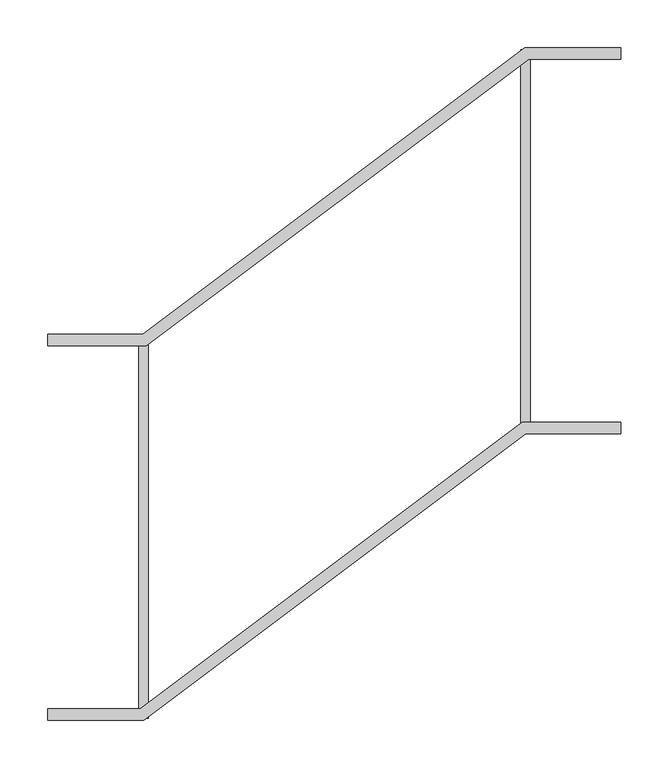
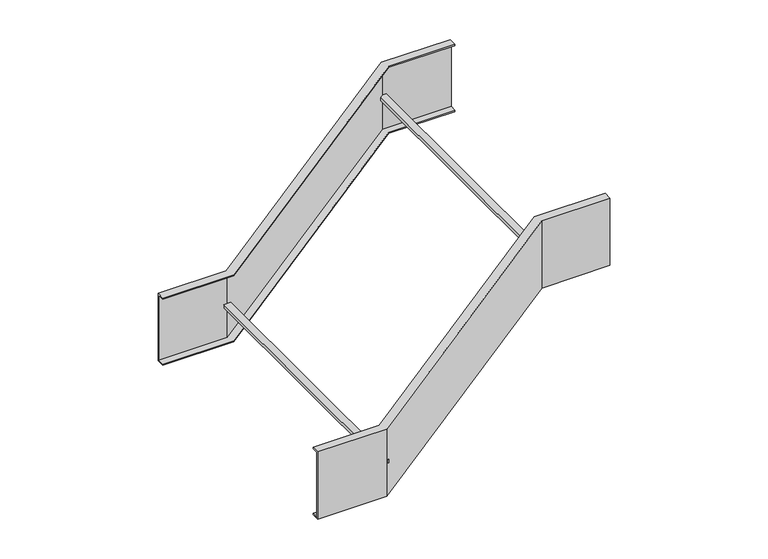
"""IFC4 building model written with IfcOpenShell, lengths in millimetres: cable carrier fitting geometry, BAKS_LDLS_CONN_Univarsal connector offset_LUS : LUS_H100."""

import ifcopenshell
import ifcopenshell.guid

model = None  # the IFC model being written
_history = None  # IfcOwnerHistory: only IFC2X3 demands one
_inside = {}  # id of a spatial element -> (the spatial element, [elements in it])
_under = {}  # id of a project, library or spatial element -> (it, [spatial elements below it])
_declared = {}  # id of a project -> (the project, [libraries it declares])
_typed = {}  # id of a type object -> (the type object, [elements of that type])
_made_of = {}  # id of a material, layer set ... -> (it, [elements and type objects made of it])


def new_model(schema):
    """Start an empty IFC model of exactly this schema.

    Asked for "IFC4X3", IfcOpenShell would pick the latest addendum, in which some entities
    have other attributes; the version numbers below select the first issue.
    IFC2X3 requires an IfcOwnerHistory on every rooted entity: one is made here for all.
    """
    global model, _history
    if schema == "IFC4X3":
        model = ifcopenshell.file(schema_version=(4, 3, 0, 0))
    else:
        model = ifcopenshell.file(schema=schema)
    _inside.clear()
    _under.clear()
    _declared.clear()
    _typed.clear()
    _made_of.clear()
    _history = None
    if model.schema == "IFC2X3":
        org = make("IfcOrganization", Name="unknown")
        user = make(
            "IfcPersonAndOrganization",
            ThePerson=make("IfcPerson", FamilyName="unknown"),
            TheOrganization=org,
        )
        app = make(
            "IfcApplication",
            ApplicationDeveloper=org,
            Version="unknown",
            ApplicationFullName="unknown",
            ApplicationIdentifier="unknown",
        )
        _history = make(
            "IfcOwnerHistory",
            OwningUser=user,
            OwningApplication=app,
            ChangeAction="ADDED",
            CreationDate=0,
        )
    return model


def make(cls, **values):
    """One entity of the class cls with the attributes given. An attribute that is None is left unset."""
    return model.create_entity(
        cls, **{name: value for name, value in values.items() if value is not None}
    )


def rooted(cls, **values):
    """An entity with a GlobalId (a new one), such as an element, a storey or a relation."""
    return make(cls, GlobalId=ifcopenshell.guid.new(), OwnerHistory=_history, **values)


def si_unit(unit_type, name, prefix=None):
    """IfcSIUnit, for example si_unit("LENGTHUNIT", "METRE", prefix="MILLI")."""
    return make("IfcSIUnit", UnitType=unit_type, Prefix=prefix, Name=name)


def assignment(units):
    """IfcUnitAssignment: the units of a project."""
    return None if units is None else make("IfcUnitAssignment", Units=units)


def point(xyz):
    """IfcCartesianPoint."""
    return None if xyz is None else make("IfcCartesianPoint", Coordinates=xyz)


def direction(xyz):
    """IfcDirection."""
    return None if xyz is None else make("IfcDirection", DirectionRatios=xyz)


def frame(location, z_axis=None, x_axis=None):
    """IfcAxis2Placement3D, a coordinate frame: its origin and axes. An axis left out is left unset."""
    return make(
        "IfcAxis2Placement3D",
        Location=point(location),
        Axis=direction(z_axis),
        RefDirection=direction(x_axis),
    )


def origin():
    """The frame at (0, 0, 0) with its axes left unset."""
    return frame((0.0, 0.0, 0.0))


def place(relative_to, where):
    """IfcLocalPlacement: puts the frame where relative to a parent placement (None: the world)."""
    return make(
        "IfcLocalPlacement", PlacementRelTo=relative_to, RelativePlacement=where
    )


def context(
    kind, dimensions, precision=None, world=None, true_north=None, identifier=None
):
    """IfcGeometricRepresentationContext, for example the 3D "Model" context."""
    return make(
        "IfcGeometricRepresentationContext",
        ContextIdentifier=identifier,
        ContextType=kind,
        CoordinateSpaceDimension=dimensions,
        Precision=precision,
        WorldCoordinateSystem=world,
        TrueNorth=true_north,
    )


def project(units=None, contexts=None):
    """IfcProject with its units and contexts."""
    return rooted(
        "IfcProject",
        Name="project",
        RepresentationContexts=contexts,
        UnitsInContext=assignment(units),
    )


def spatial(cls, under=None, at=None, **own):
    """A site, building, storey or space (cls), placed at a placement, below another one or the project."""
    s = rooted(cls, ObjectPlacement=at, **own)
    if under is not None:
        _under.setdefault(under.id(), (under, []))[1].append(s)
    return s


def polyline(points):
    """IfcPolyline through the points."""
    return make("IfcPolyline", Points=[point(p) for p in points])


def outline(outer, holes=None, kind="AREA"):
    """IfcArbitraryClosedProfileDef: a profile drawn as a closed curve; with holes, ...WithVoids."""
    if holes is None:
        return make("IfcArbitraryClosedProfileDef", ProfileType=kind, OuterCurve=outer)
    return make(
        "IfcArbitraryProfileDefWithVoids",
        ProfileType=kind,
        OuterCurve=outer,
        InnerCurves=holes,
    )


def extrude(swept, where, along, depth):
    """IfcExtrudedAreaSolid: the profile swept, set in the frame where, extruded along a direction by depth."""
    return make(
        "IfcExtrudedAreaSolid",
        SweptArea=swept,
        Position=where,
        ExtrudedDirection=direction(along),
        Depth=depth,
    )


def faces_of(points, faces, orient=None, outer=None):
    """IfcFace entities. A face is a list of loops; a loop is a list of indices into points, from 0.

    orient and outer hold one flag for each loop. By default every Orientation is true, the
    first loop of a face is its IfcFaceOuterBound and the others are IfcFaceBound.
    """
    made = []
    for i, loops in enumerate(faces):
        bounds = []
        for j, loop in enumerate(loops):
            is_outer = j == 0 if outer is None else outer[i][j]
            bounds.append(
                make(
                    "IfcFaceOuterBound" if is_outer else "IfcFaceBound",
                    Bound=make("IfcPolyLoop", Polygon=[points[k] for k in loop]),
                    Orientation=True if orient is None else orient[i][j],
                )
            )
        made.append(make("IfcFace", Bounds=bounds))
    return made


def faceted_brep(points, faces, orient=None, outer=None, voids=None):
    """IfcFacetedBrep: a solid bounded by flat faces; with voids (closed shells), ...WithVoids."""
    shared = [point(p) for p in points]
    hull = make("IfcClosedShell", CfsFaces=faces_of(shared, faces, orient, outer))
    if voids is None:
        return make("IfcFacetedBrep", Outer=hull)
    return make(
        "IfcFacetedBrepWithVoids",
        Outer=hull,
        Voids=[
            make(cls, CfsFaces=faces_of(shared, fs, o, b)) for cls, fs, o, b in voids
        ],
    )


def shape(context_of_items, identifier, shape_type, items):
    """IfcShapeRepresentation: the items that make up one representation, for example the "Body"."""
    return make(
        "IfcShapeRepresentation",
        ContextOfItems=context_of_items,
        RepresentationIdentifier=identifier,
        RepresentationType=shape_type,
        Items=items,
    )


def source(mapping_origin, context_of_items, identifier, shape_type, items):
    """IfcRepresentationMap: a shape defined once, which mapped items show again and again."""
    return make(
        "IfcRepresentationMap",
        MappingOrigin=mapping_origin,
        MappedRepresentation=shape(context_of_items, identifier, shape_type, items),
    )


def transform(
    local_origin,
    x_axis=None,
    y_axis=None,
    z_axis=None,
    scale=None,
    scale2=None,
    scale3=None,
    uniform=True,
):
    """IfcCartesianTransformationOperator3D, or its non-uniform kind. x_axis, y_axis, z_axis: its Axis1, 2, 3."""
    if uniform:
        return make(
            "IfcCartesianTransformationOperator3D",
            Axis1=direction(x_axis),
            Axis2=direction(y_axis),
            LocalOrigin=point(local_origin),
            Scale=scale,
            Axis3=direction(z_axis),
        )
    return make(
        "IfcCartesianTransformationOperator3DnonUniform",
        Axis1=direction(x_axis),
        Axis2=direction(y_axis),
        LocalOrigin=point(local_origin),
        Scale=scale,
        Axis3=direction(z_axis),
        Scale2=scale2,
        Scale3=scale3,
    )


def mapped(mapping_source, mapping_target):
    """IfcMappedItem: shows the shape of a source again, moved by a transform."""
    return make(
        "IfcMappedItem", MappingSource=mapping_source, MappingTarget=mapping_target
    )


def made_of(thing, what):
    """Note that an element or type object is made of a material, layer set ...; save() writes the relation."""
    if what is not None:
        _made_of.setdefault(what.id(), (what, []))[1].append(thing)
    return thing


def element(
    cls,
    number,
    at=None,
    inside=None,
    cuts=None,
    type_object=None,
    material=None,
    context=None,
    identifier="Body",
    shape_type=None,
    held_by="IfcProductDefinitionShape",
    body=None,
    shapes=None,
    **own,
):
    """One element of the class cls, such as IfcWall. Its Tag is "e" and its number.

    at: its placement. inside: the storey or other place that contains it. cuts: it is an
    opening in that element (IfcRelVoidsElement). A single representation is given by context,
    identifier, shape_type and body (its items); several are given by shapes. held_by: the class
    of the entity that holds the representations. save() writes the other relations.
    """
    e = rooted(cls, Tag="e%d" % number, ObjectPlacement=at, **own)
    if body is not None:
        shapes = [shape(context, identifier, shape_type, body)]
    if shapes is not None:
        e.Representation = make(held_by, Representations=shapes)
    if inside is not None:
        _inside.setdefault(inside.id(), (inside, []))[1].append(e)
    if cuts is not None:
        rooted(
            "IfcRelVoidsElement", RelatingBuildingElement=cuts, RelatedOpeningElement=e
        )
    if type_object is not None:
        _typed.setdefault(type_object.id(), (type_object, []))[1].append(e)
    return made_of(e, material)


def aggregate(whole, parts):
    """IfcRelAggregates: a whole, such as a stair, and the parts it consists of."""
    return rooted("IfcRelAggregates", RelatingObject=whole, RelatedObjects=parts)


def save(model, path):
    """Write the relations noted so far, then the file.

    IfcRelAggregates (storeys below a building ...), IfcRelContainedInSpatialStructure (elements
    in a storey), IfcRelDefinesByType, IfcRelAssociatesMaterial and IfcRelDeclares: one each for
    every whole, place, type object, material and project.
    """
    for whole, parts in _under.values():
        aggregate(whole, parts)
    for where, things in _inside.values():
        rooted(
            "IfcRelContainedInSpatialStructure",
            RelatedElements=things,
            RelatingStructure=where,
        )
    for kind, things in _typed.values():
        rooted("IfcRelDefinesByType", RelatedObjects=things, RelatingType=kind)
    for what, things in _made_of.values():
        rooted("IfcRelAssociatesMaterial", RelatedObjects=things, RelatingMaterial=what)
    for by, libraries in _declared.values():
        rooted("IfcRelDeclares", RelatingContext=by, RelatedDefinitions=libraries)
    model.write(path)


def cable_carrier_fitting_82eef748(model_context):
    return source(origin(), model_context, "Body", "SolidModel", [
        extrude(outline(polyline([(25.0, 200.0), (35.0, 200.0), (35.0, -200.0), (25.0, -200.0), (25.0, 200.0)])), frame((0.0, 0.0, -2.5), z_axis=(0.0, 0.0, 1.0), x_axis=(1.0, 0.0, 0.0)), (0.0, 0.0, 1.0), 5.0),
        extrude(outline(polyline([(435.0, 100.0), (425.0, 100.0), (425.0, 500.0), (435.0, 500.0), (435.0, 100.0)])), frame((0.0, 0.0, -2.5), z_axis=(0.0, 0.0, 1.0), x_axis=(1.0, 0.0, 0.0)), (0.0, 0.0, 1.0), 5.0),
        faceted_brep([(-70.0, -190.0, 52.0), (-70.0, -190.0, 50.0), (-70.0, -200.0, 50.0), (-70.0, -200.0, -50.0), (-70.0, -190.0, -50.0), (-70.0, -190.0, -52.0), (-70.0, -202.0, -52.0), (-70.0, -202.0, 52.0), (26.6666667, -190.0, 52.0), (26.6666667, -190.0, 50.0), (426.6666667, 110.0, 50.0), (530.0, 110.0, 50.0), (530.0, 100.0, 50.0), (430.0, 100.0, 50.0), (30.0, -200.0, 50.0), (30.0, -200.0, -50.0), (430.0, 100.0, -50.0), (530.0, 100.0, -50.0), (530.0, 110.0, -50.0), (426.6666667, 110.0, -50.0), (26.6666667, -190.0, -50.0), (26.6666667, -190.0, -52.0), (426.6666667, 110.0, -52.0), (530.0, 110.0, -52.0), (530.0, 98.0, -52.0), (430.6666667, 98.0, -52.0), (30.6666667, -202.0, -52.0), (30.6666667, -202.0, 52.0), (430.6666667, 98.0, 52.0), (530.0, 98.0, 52.0), (530.0, 110.0, 52.0), (426.6666667, 110.0, 52.0)], [[[0, 1, 2, 3, 4, 5, 6, 7]], [[1, 0, 8, 9]], [[2, 1, 9, 10, 11, 12, 13, 14]], [[3, 2, 14, 15]], [[4, 3, 15, 16, 17, 18, 19, 20]], [[5, 4, 20, 21]], [[6, 5, 21, 22, 23, 24, 25, 26]], [[7, 6, 26, 27]], [[0, 7, 27, 28, 29, 30, 31, 8]], [[9, 8, 31, 10]], [[15, 14, 13, 16]], [[21, 20, 19, 22]], [[27, 26, 25, 28]], [[30, 29, 24, 23, 18, 17, 12, 11]], [[10, 31, 30, 11]], [[16, 13, 12, 17]], [[22, 19, 18, 23]], [[28, 25, 24, 29]]]),
        faceted_brep([(530.0, 490.0, 52.0), (530.0, 490.0, 50.0), (530.0, 500.0, 50.0), (530.0, 500.0, -50.0), (530.0, 490.0, -50.0), (530.0, 490.0, -52.0), (530.0, 502.0, -52.0), (530.0, 502.0, 52.0), (433.3333333, 490.0, 52.0), (433.3333333, 490.0, 50.0), (33.3333333, 190.0, 50.0), (-70.0, 190.0, 50.0), (-70.0, 200.0, 50.0), (30.0, 200.0, 50.0), (430.0, 500.0, 50.0), (430.0, 500.0, -50.0), (30.0, 200.0, -50.0), (-70.0, 200.0, -50.0), (-70.0, 190.0, -50.0), (33.3333333, 190.0, -50.0), (433.3333333, 490.0, -50.0), (433.3333333, 490.0, -52.0), (33.3333333, 190.0, -52.0), (-70.0, 190.0, -52.0), (-70.0, 202.0, -52.0), (29.3333333, 202.0, -52.0), (429.3333333, 502.0, -52.0), (429.3333333, 502.0, 52.0), (29.3333333, 202.0, 52.0), (-70.0, 202.0, 52.0), (-70.0, 190.0, 52.0), (33.3333333, 190.0, 52.0)], [[[0, 1, 2, 3, 4, 5, 6, 7]], [[1, 0, 8, 9]], [[2, 1, 9, 10, 11, 12, 13, 14]], [[3, 2, 14, 15]], [[4, 3, 15, 16, 17, 18, 19, 20]], [[5, 4, 20, 21]], [[6, 5, 21, 22, 23, 24, 25, 26]], [[7, 6, 26, 27]], [[0, 7, 27, 28, 29, 30, 31, 8]], [[9, 8, 31, 10]], [[15, 14, 13, 16]], [[21, 20, 19, 22]], [[27, 26, 25, 28]], [[30, 29, 24, 23, 18, 17, 12, 11]], [[10, 31, 30, 11]], [[16, 13, 12, 17]], [[22, 19, 18, 23]], [[28, 25, 24, 29]]]),
    ])


if __name__ == "__main__":
    model = new_model("IFC4")
    model_context = context("Model", 3, world=origin())
    ifc_project = project(units=[si_unit("LENGTHUNIT", "METRE", prefix="MILLI")], contexts=[model_context])
    site = spatial("IfcSite", under=ifc_project)
    building = spatial("IfcBuilding", under=site)
    placement = place(None, origin())
    cable_carrier_fitting_shape = cable_carrier_fitting_82eef748(model_context)
    element("IfcCableCarrierFitting", 1, ObjectType="BAKS_LDLS_CONN_Univarsal connector offset_LUS : LUS_H100", at=placement, inside=building, context=model_context, shape_type="MappedRepresentation", body=[
        mapped(cable_carrier_fitting_shape, transform((0.0, 0.0, 0.0), x_axis=(1.0, 0.0, 0.0), y_axis=(0.0, 1.0, 0.0), z_axis=(0.0, 0.0, 1.0))),
    ])
    save(model, "model.ifc")
